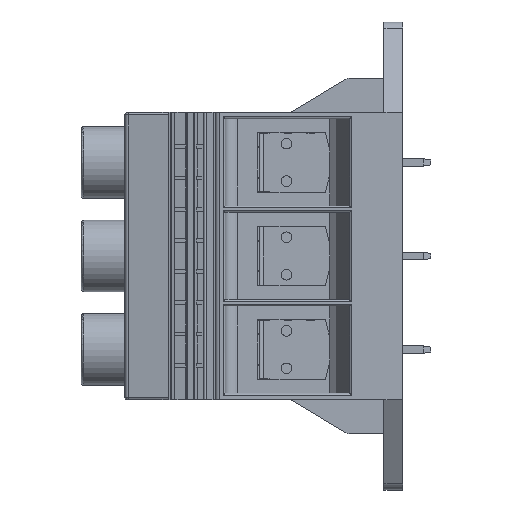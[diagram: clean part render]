
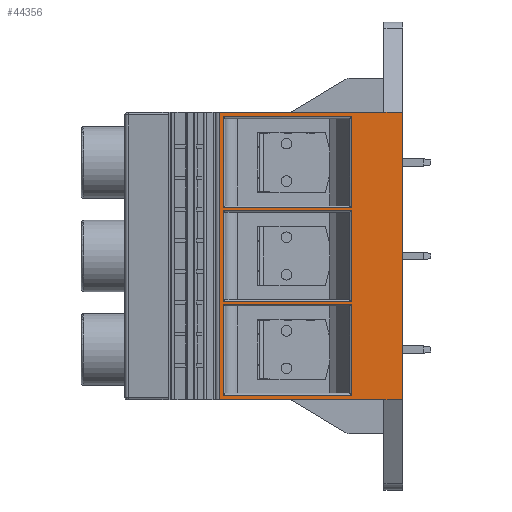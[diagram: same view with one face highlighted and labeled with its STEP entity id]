
A CAD part, left-side view. The second image highlights one B-rep face of the part: STEP entity #44356.
In plain terms, the highlighted planar face has unit normal (-1, 0, 0).
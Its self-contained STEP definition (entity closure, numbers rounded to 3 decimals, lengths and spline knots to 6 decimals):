
#405=DIRECTION('',(0.,1.,0.));
#406=VECTOR('',#405,0.0264);
#407=CARTESIAN_POINT('',(0.,0.003,-0.0605));
#408=LINE('',#407,#406);
#1906=DIRECTION('',(0.,1.,0.));
#1907=VECTOR('',#1906,0.020576);
#1908=CARTESIAN_POINT('',(0.,0.008194,-0.0302));
#1909=LINE('',#1908,#1907);
#1960=DIRECTION('',(0.,0.,-1.));
#1961=VECTOR('',#1960,0.0146);
#1962=CARTESIAN_POINT('',(0.,0.02877,-0.0302));
#1963=LINE('',#1962,#1961);
#1986=DIRECTION('',(0.,-1.,0.));
#1987=VECTOR('',#1986,0.020576);
#1988=CARTESIAN_POINT('',(0.,0.02877,-0.0448));
#1989=LINE('',#1988,#1987);
#2005=DIRECTION('',(0.,0.,1.));
#2006=VECTOR('',#2005,0.0146);
#2007=CARTESIAN_POINT('',(0.,0.008194,-0.0448));
#2008=LINE('',#2007,#2006);
#2009=DIRECTION('',(0.,1.,0.));
#2010=VECTOR('',#2009,0.0264);
#2011=CARTESIAN_POINT('',(0.,0.003,-0.0145));
#2012=LINE('',#2011,#2010);
#2013=DIRECTION('',(0.,0.,1.));
#2014=VECTOR('',#2013,0.046);
#2015=CARTESIAN_POINT('',(0.,0.,-0.0605));
#2016=LINE('',#2015,#2014);
#2026=DIRECTION('',(0.,1.,0.));
#2027=VECTOR('',#2026,0.020576);
#2028=CARTESIAN_POINT('',(0.,0.008194,-0.0152));
#2029=LINE('',#2028,#2027);
#2068=DIRECTION('',(0.,-1.,0.));
#2069=VECTOR('',#2068,0.020576);
#2070=CARTESIAN_POINT('',(0.,0.02877,-0.0298));
#2071=LINE('',#2070,#2069);
#2104=DIRECTION('',(0.,0.,-1.));
#2105=VECTOR('',#2104,0.0146);
#2106=CARTESIAN_POINT('',(0.,0.02877,-0.0152));
#2107=LINE('',#2106,#2105);
#4134=DIRECTION('',(0.,0.,-1.));
#4135=VECTOR('',#4134,0.0146);
#4136=CARTESIAN_POINT('',(0.,0.02877,-0.0452));
#4137=LINE('',#4136,#4135);
#4147=DIRECTION('',(0.,1.,0.));
#4148=VECTOR('',#4147,0.020576);
#4149=CARTESIAN_POINT('',(0.,0.008194,-0.0452));
#4150=LINE('',#4149,#4148);
#4162=DIRECTION('',(0.,0.,1.));
#4163=VECTOR('',#4162,0.0146);
#4164=CARTESIAN_POINT('',(0.,0.008194,-0.0598));
#4165=LINE('',#4164,#4163);
#4185=DIRECTION('',(0.,-1.,0.));
#4186=VECTOR('',#4185,0.020576);
#4187=CARTESIAN_POINT('',(0.,0.02877,-0.0598));
#4188=LINE('',#4187,#4186);
#14815=DIRECTION('',(0.,0.,1.));
#14816=VECTOR('',#14815,0.0146);
#14817=CARTESIAN_POINT('',(0.,0.008194,-0.0298));
#14818=LINE('',#14817,#14816);
#14834=DIRECTION('',(0.,1.,0.));
#14835=VECTOR('',#14834,0.003);
#14836=CARTESIAN_POINT('',(0.,0.,-0.0605));
#14837=LINE('',#14836,#14835);
#14878=DIRECTION('',(0.,0.,1.));
#14879=VECTOR('',#14878,0.046);
#14880=CARTESIAN_POINT('',(0.,0.0294,-0.0605));
#14881=LINE('',#14880,#14879);
#15941=DIRECTION('',(0.,-1.,0.));
#15942=VECTOR('',#15941,0.003);
#15943=CARTESIAN_POINT('',(0.,0.003,-0.0145));
#15944=LINE('',#15943,#15942);
#35121=CARTESIAN_POINT('',(0.,0.003,-0.0145));
#35122=VERTEX_POINT('',#35121);
#35123=CARTESIAN_POINT('',(0.,0.0294,-0.0145));
#35124=VERTEX_POINT('',#35123);
#35238=CARTESIAN_POINT('',(0.,0.,-0.0605));
#35239=CARTESIAN_POINT('',(0.,0.,-0.0145));
#35240=VERTEX_POINT('',#35238);
#35241=VERTEX_POINT('',#35239);
#35366=CARTESIAN_POINT('',(0.,0.003,-0.0605));
#35367=CARTESIAN_POINT('',(0.,0.0294,-0.0605));
#35368=VERTEX_POINT('',#35366);
#35369=VERTEX_POINT('',#35367);
#35370=CARTESIAN_POINT('',(0.,0.008194,-0.0452));
#35371=CARTESIAN_POINT('',(0.,0.02877,-0.0452));
#35372=VERTEX_POINT('',#35370);
#35373=VERTEX_POINT('',#35371);
#35374=CARTESIAN_POINT('',(0.,0.02877,-0.0598));
#35375=VERTEX_POINT('',#35374);
#35376=CARTESIAN_POINT('',(0.,0.008194,-0.0598));
#35377=VERTEX_POINT('',#35376);
#35378=CARTESIAN_POINT('',(0.,0.02877,-0.0448));
#35379=CARTESIAN_POINT('',(0.,0.008194,-0.0448));
#35380=VERTEX_POINT('',#35378);
#35381=VERTEX_POINT('',#35379);
#35382=CARTESIAN_POINT('',(0.,0.008194,-0.0302));
#35383=VERTEX_POINT('',#35382);
#35384=CARTESIAN_POINT('',(0.,0.02877,-0.0302));
#35385=VERTEX_POINT('',#35384);
#35386=CARTESIAN_POINT('',(0.,0.02877,-0.0152));
#35387=CARTESIAN_POINT('',(0.,0.02877,-0.0298));
#35388=VERTEX_POINT('',#35386);
#35389=VERTEX_POINT('',#35387);
#35390=CARTESIAN_POINT('',(0.,0.008194,-0.0298));
#35391=VERTEX_POINT('',#35390);
#35392=CARTESIAN_POINT('',(0.,0.008194,-0.0152));
#35393=VERTEX_POINT('',#35392);
#44314=CARTESIAN_POINT('',(0.,0.03,-0.0605));
#44315=DIRECTION('',(-1.,0.,0.));
#44316=DIRECTION('',(0.,-1.,0.));
#44317=AXIS2_PLACEMENT_3D('',#44314,#44315,#44316);
#44318=PLANE('',#44317);
#44320=ORIENTED_EDGE('',*,*,#44319,.T.);
#44321=ORIENTED_EDGE('',*,*,#41924,.T.);
#44323=ORIENTED_EDGE('',*,*,#44322,.T.);
#44324=ORIENTED_EDGE('',*,*,#41485,.F.);
#44326=ORIENTED_EDGE('',*,*,#44325,.T.);
#44327=ORIENTED_EDGE('',*,*,#41638,.F.);
#44328=EDGE_LOOP('',(#44320,#44321,#44323,#44324,#44326,#44327));
#44329=FACE_OUTER_BOUND('',#44328,.F.);
#44330=ORIENTED_EDGE('',*,*,#44279,.T.);
#44331=ORIENTED_EDGE('',*,*,#44296,.T.);
#44332=ORIENTED_EDGE('',*,*,#44309,.T.);
#44333=ORIENTED_EDGE('',*,*,#44234,.T.);
#44334=EDGE_LOOP('',(#44330,#44331,#44332,#44333));
#44335=FACE_BOUND('',#44334,.F.);
#44337=ORIENTED_EDGE('',*,*,#44336,.T.);
#44339=ORIENTED_EDGE('',*,*,#44338,.T.);
#44341=ORIENTED_EDGE('',*,*,#44340,.T.);
#44343=ORIENTED_EDGE('',*,*,#44342,.T.);
#44344=EDGE_LOOP('',(#44337,#44339,#44341,#44343));
#44345=FACE_BOUND('',#44344,.F.);
#44347=ORIENTED_EDGE('',*,*,#44346,.T.);
#44349=ORIENTED_EDGE('',*,*,#44348,.T.);
#44351=ORIENTED_EDGE('',*,*,#44350,.T.);
#44353=ORIENTED_EDGE('',*,*,#44352,.T.);
#44354=EDGE_LOOP('',(#44347,#44349,#44351,#44353));
#44355=FACE_BOUND('',#44354,.F.);
#44356=ADVANCED_FACE('',(#44329,#44335,#44345,#44355),#44318,.T.);
#41485=EDGE_CURVE('',#35122,#35124,#2012,.T.);
#41638=EDGE_CURVE('',#35240,#35241,#2016,.T.);
#41924=EDGE_CURVE('',#35368,#35369,#408,.T.);
#44234=EDGE_CURVE('',#35383,#35385,#1909,.T.);
#44279=EDGE_CURVE('',#35385,#35380,#1963,.T.);
#44296=EDGE_CURVE('',#35380,#35381,#1989,.T.);
#44309=EDGE_CURVE('',#35381,#35383,#2008,.T.);
#44319=EDGE_CURVE('',#35240,#35368,#14837,.T.);
#44322=EDGE_CURVE('',#35369,#35124,#14881,.T.);
#44325=EDGE_CURVE('',#35122,#35241,#15944,.T.);
#44336=EDGE_CURVE('',#35377,#35372,#4165,.T.);
#44338=EDGE_CURVE('',#35372,#35373,#4150,.T.);
#44340=EDGE_CURVE('',#35373,#35375,#4137,.T.);
#44342=EDGE_CURVE('',#35375,#35377,#4188,.T.);
#44346=EDGE_CURVE('',#35393,#35388,#2029,.T.);
#44348=EDGE_CURVE('',#35388,#35389,#2107,.T.);
#44350=EDGE_CURVE('',#35389,#35391,#2071,.T.);
#44352=EDGE_CURVE('',#35391,#35393,#14818,.T.);
